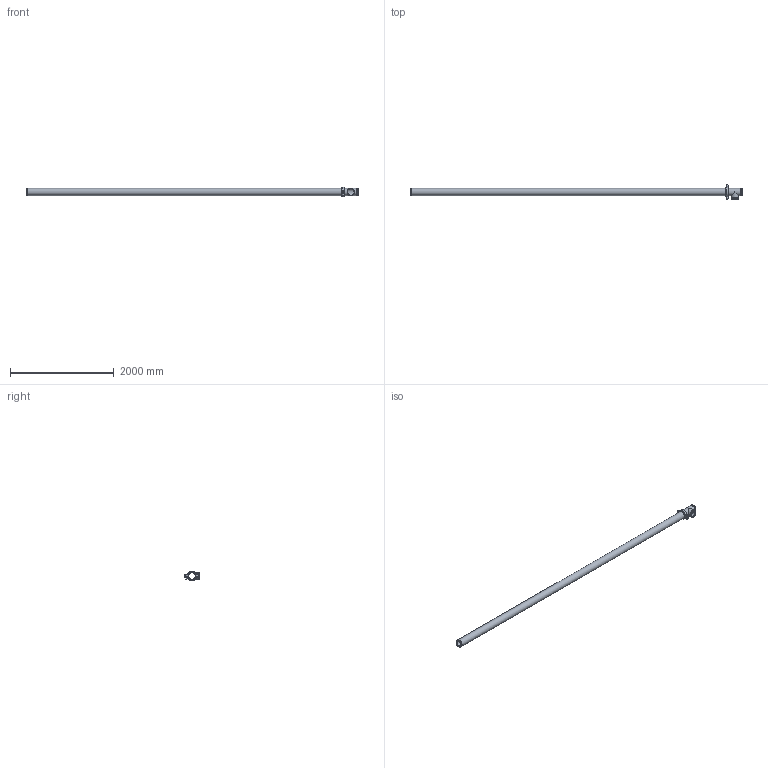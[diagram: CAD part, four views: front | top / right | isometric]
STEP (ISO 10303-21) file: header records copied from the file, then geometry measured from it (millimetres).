
FILE_DESCRIPTION(/* description */ ('VIC LONG RUN FITTING No R22 (OGS)','CAx-IF Rec.Pracs.---Representation and Presentation of Product Manufacturing Information (PMI)---4.0---2014-10-13'),/* implementation_level */ '2;1');
FILE_NAME(/* name */ 'C:\Users\Vjadhav\AppData\Roaming\Autodesk\ApplicationPlugins\Back Up\Victaulic_IPS_Long Run Fittings_No R22 (OGS)\Victaulic_IPS_Long Run Fittings_No R22 (OGS)_5 (125).stp',/* time_stamp */ '2020-10-14T10:37:54+05:00',/* author */ ('Vjadhav'),/* organization */ ('Victaulic'),/* preprocessor_version */ 'ST-DEVELOPER v17.2',/* originating_system */ 'Autodesk Inventor 2019',/* authorisation */ '');
FILE_SCHEMA (('AP242_MANAGED_MODEL_BASED_3D_ENGINEERING_MIM_LF { 1 0 10303 442 1 1 4 }'));
Length unit declared in the file: inch
Products named in the file (4): R22-05.0; 020-05.0; 177N-05.0; Pipe_R10-05.0
Assembly tree (3 placements, depth 2):
  R22-05.0
    020-05.0
    177N-05.0
    Pipe_R10-05.0
Bounding box: 6385.05 x 284.03 x 185.67 mm (x, y, z)
Volume: 18613542.3 mm3; surface area: 5577866.9 mm2
Topology: 3 solids, 3 shells, 122 faces, 323 edges, 222 vertices
Faces by surface type: plane 71, cylinder 41, cone 4, torus 4, sphere 2
Full cylindrical faces by diameter (mm): 17.78 x2, 30.48 x2, 128.194 x3, 128.6 x1, 137.033 x5, 141.3 x10
Entity records: 4247 total; most frequent: CARTESIAN_POINT 750, DIRECTION 711, ORIENTED_EDGE 654, EDGE_CURVE 327, AXIS2_PLACEMENT_3D 271, VERTEX_POINT 222, LINE 169, VECTOR 169
